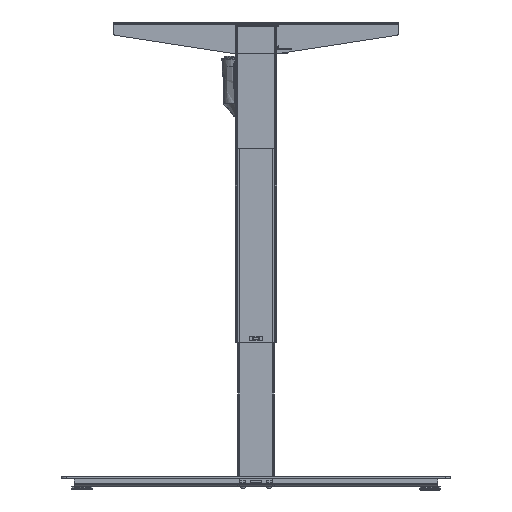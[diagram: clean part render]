
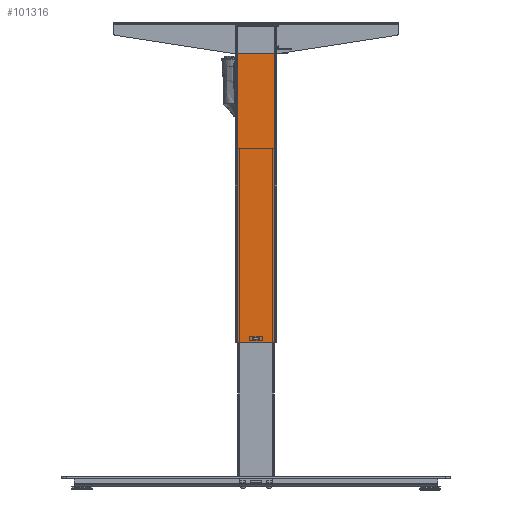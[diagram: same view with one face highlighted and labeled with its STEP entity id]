
A CAD part, left-side view. The second image highlights one B-rep face of the part: STEP entity #101316.
In plain terms, the highlighted planar face has unit normal (-1, 0, 0).
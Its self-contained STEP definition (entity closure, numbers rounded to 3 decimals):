
#938 = CARTESIAN_POINT ( 'NONE',  ( -29.5, 36.5, 0. ) ) ;
#1013 = ORIENTED_EDGE ( 'NONE', *, *, #114178, .T. ) ;
#3279 = VERTEX_POINT ( 'NONE', #36757 ) ;
#3957 = VECTOR ( 'NONE', #24269, 1000. ) ;
#6975 = EDGE_CURVE ( 'NONE', #43340, #116798, #106341, .T. ) ;
#8231 = CARTESIAN_POINT ( 'NONE',  ( -29.5, 36.5, 609. ) ) ;
#10940 = CARTESIAN_POINT ( 'NONE',  ( -29.5, -36.5, 609. ) ) ;
#11296 = CARTESIAN_POINT ( 'NONE',  ( -29.5, 6., 10. ) ) ;
#12331 = EDGE_CURVE ( 'NONE', #92898, #116798, #48066, .T. ) ;
#13071 = VERTEX_POINT ( 'NONE', #20213 ) ;
#13921 = EDGE_LOOP ( 'NONE', ( #82331, #27425, #42236, #109077 ) ) ;
#14447 = VECTOR ( 'NONE', #48254, 1000. ) ;
#15268 = CARTESIAN_POINT ( 'NONE',  ( -29.5, 6., 6. ) ) ;
#17619 = CARTESIAN_POINT ( 'NONE',  ( -29.5, 6., 10. ) ) ;
#19135 = EDGE_CURVE ( 'NONE', #109633, #43340, #28203, .T. ) ;
#19973 = ORIENTED_EDGE ( 'NONE', *, *, #43951, .T. ) ;
#20213 = CARTESIAN_POINT ( 'NONE',  ( -29.5, -6., 6. ) ) ;
#22490 = DIRECTION ( 'NONE',  ( 0., 1., 0. ) ) ;
#24269 = DIRECTION ( 'NONE',  ( 0., -1., 0. ) ) ;
#27425 = ORIENTED_EDGE ( 'NONE', *, *, #73690, .F. ) ;
#28203 = LINE ( 'NONE', #115067, #64428 ) ;
#28323 = DIRECTION ( 'NONE',  ( 0., 1., 0. ) ) ;
#29459 = LINE ( 'NONE', #11296, #14447 ) ;
#30938 = CARTESIAN_POINT ( 'NONE',  ( -29.5, 39.5, 609. ) ) ;
#31056 = DIRECTION ( 'NONE',  ( 0., 0., -1. ) ) ;
#31069 = VECTOR ( 'NONE', #31056, 1000. ) ;
#34362 = CARTESIAN_POINT ( 'NONE',  ( -29.5, 36.5, 0. ) ) ;
#36757 = CARTESIAN_POINT ( 'NONE',  ( -29.5, -6., 10. ) ) ;
#37992 = CARTESIAN_POINT ( 'NONE',  ( -29.5, 6., 6. ) ) ;
#40142 = CARTESIAN_POINT ( 'NONE',  ( -29.5, -36.5, 614. ) ) ;
#42236 = ORIENTED_EDGE ( 'NONE', *, *, #19135, .T. ) ;
#42342 = VECTOR ( 'NONE', #28323, 1000. ) ;
#42426 = PLANE ( 'NONE',  #103324 ) ;
#43340 = VERTEX_POINT ( 'NONE', #938 ) ;
#43951 = EDGE_CURVE ( 'NONE', #13071, #88412, #102109, .T. ) ;
#48066 = LINE ( 'NONE', #40142, #31069 ) ;
#48254 = DIRECTION ( 'NONE',  ( 0., 0., 1. ) ) ;
#50214 = EDGE_LOOP ( 'NONE', ( #1013, #83012, #71787, #19973 ) ) ;
#53611 = CARTESIAN_POINT ( 'NONE',  ( -29.5, -6., 10. ) ) ;
#58849 = FACE_BOUND ( 'NONE', #50214, .T. ) ;
#60405 = LINE ( 'NONE', #53611, #116900 ) ;
#64428 = VECTOR ( 'NONE', #101394, 1000. ) ;
#67893 = DIRECTION ( 'NONE',  ( 0., -1., 0. ) ) ;
#70126 = DIRECTION ( 'NONE',  ( 0., -1., 0. ) ) ;
#71787 = ORIENTED_EDGE ( 'NONE', *, *, #99115, .T. ) ;
#73690 = EDGE_CURVE ( 'NONE', #109633, #92898, #113804, .T. ) ;
#82331 = ORIENTED_EDGE ( 'NONE', *, *, #12331, .F. ) ;
#83012 = ORIENTED_EDGE ( 'NONE', *, *, #84387, .T. ) ;
#84387 = EDGE_CURVE ( 'NONE', #111496, #3279, #100472, .T. ) ;
#88412 = VERTEX_POINT ( 'NONE', #15268 ) ;
#92898 = VERTEX_POINT ( 'NONE', #10940 ) ;
#93949 = CARTESIAN_POINT ( 'NONE',  ( -29.5, 6., 10. ) ) ;
#95115 = FACE_OUTER_BOUND ( 'NONE', #13921, .T. ) ;
#95178 = VECTOR ( 'NONE', #70126, 1000. ) ;
#99115 = EDGE_CURVE ( 'NONE', #3279, #13071, #60405, .T. ) ;
#100472 = LINE ( 'NONE', #17619, #3957 ) ;
#101316 = ADVANCED_FACE ( 'NONE', ( #58849, #95115 ), #42426, .F. ) ;
#101394 = DIRECTION ( 'NONE',  ( 0., 0., -1. ) ) ;
#102109 = LINE ( 'NONE', #37992, #42342 ) ;
#103324 = AXIS2_PLACEMENT_3D ( 'NONE', #105917, #115598, #22490 ) ;
#103655 = CARTESIAN_POINT ( 'NONE',  ( -29.5, -36.5, 0. ) ) ;
#105917 = CARTESIAN_POINT ( 'NONE',  ( -29.5, 36.5, 614. ) ) ;
#106341 = LINE ( 'NONE', #34362, #95178 ) ;
#109077 = ORIENTED_EDGE ( 'NONE', *, *, #6975, .T. ) ;
#109173 = DIRECTION ( 'NONE',  ( 0., 0., -1. ) ) ;
#109633 = VERTEX_POINT ( 'NONE', #8231 ) ;
#111496 = VERTEX_POINT ( 'NONE', #93949 ) ;
#113804 = LINE ( 'NONE', #30938, #119152 ) ;
#114178 = EDGE_CURVE ( 'NONE', #88412, #111496, #29459, .T. ) ;
#115067 = CARTESIAN_POINT ( 'NONE',  ( -29.5, 36.5, 614. ) ) ;
#115598 = DIRECTION ( 'NONE',  ( 1., 0., 0. ) ) ;
#116798 = VERTEX_POINT ( 'NONE', #103655 ) ;
#116900 = VECTOR ( 'NONE', #109173, 1000. ) ;
#119152 = VECTOR ( 'NONE', #67893, 1000. ) ;
